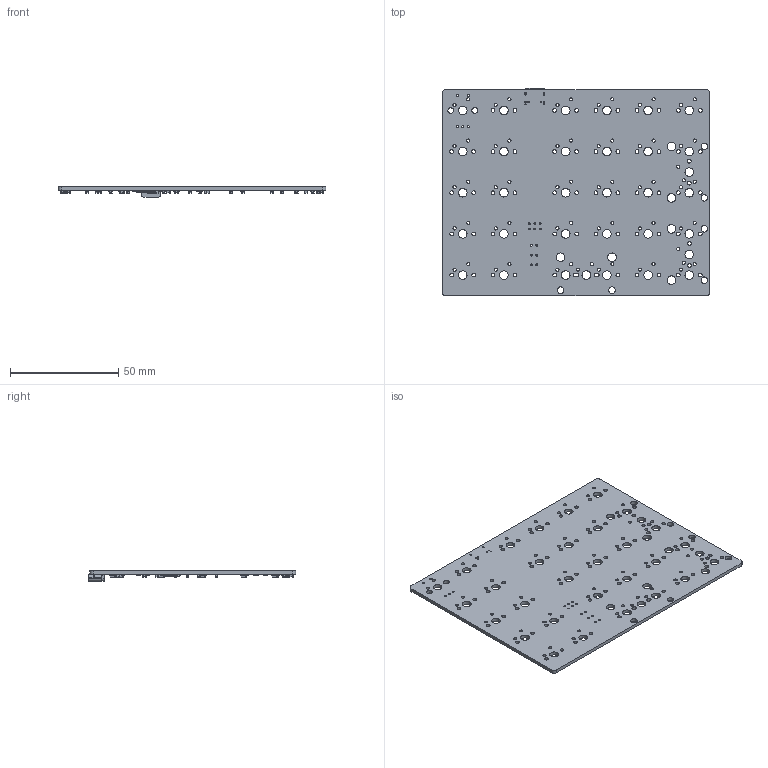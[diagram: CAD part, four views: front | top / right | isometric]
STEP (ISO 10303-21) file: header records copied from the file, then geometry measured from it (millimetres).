
FILE_DESCRIPTION(('KiCad electronic assembly'),'2;1');
FILE_NAME('ahoy_pcb.step','2021-07-11T19:36:17',('Pcbnew'),('Kicad'), 'Open CASCADE STEP processor 7.5','KiCad to STEP converter','Unknown' );
FILE_SCHEMA(('AUTOMOTIVE_DESIGN { 1 0 10303 214 1 1 1 1 }'));
Length unit declared in the file: millimetre
Products named in the file (18): ahoy_pcb 1; D_SOD-123; SOLID; R_0805_2012Metric; C_0805_2012Metric; SOT-23-6; TQFP-44_10x10mm_P0.8mm; Fuse_1206_3216Metric; Crystal_SMD_3225-4Pin_3.2x2.5mm; TYPE-C-31-M-12; COMPOUND
Assembly tree (69 placements, depth 3):
  ahoy_pcb 1
    D_SOD-123  x30
      SOLID
    R_0805_2012Metric  x10
      SOLID
    C_0805_2012Metric  x15
      SOLID
    SOT-23-6
      SOLID
    TQFP-44_10x10mm_P0.8mm
      SOLID
    Fuse_1206_3216Metric
      SOLID
    Crystal_SMD_3225-4Pin_3.2x2.5mm
      SOLID
    TYPE-C-31-M-12
      SOLID
    COMPOUND
Bounding box: 123.83 x 95.93 x 4.86 mm (x, y, z)
Volume: 17968.6 mm3; surface area: 26364.3 mm2
Topology: 61 solids, 61 shells, 3936 faces, 9841 edges, 6094 vertices
Faces by surface type: bspline 3708, cylinder 214, plane 14
Full cylindrical faces by diameter (mm): 0.65 x2, 0.762 x6, 0.9 x6, 1 x5, 1.47 x66, 1.75 x60, 3.048 x6, 3.988 x39
Entity records: 95624 total; most frequent: CARTESIAN_POINT 36113, B_SPLINE_CURVE_WITH_KNOTS 7951, ORIENTED_EDGE 7394, PCURVE 7394, DEFINITIONAL_REPRESENTATION 7394, EDGE_CURVE 3697, SURFACE_CURVE 3502, DIRECTION 2614
